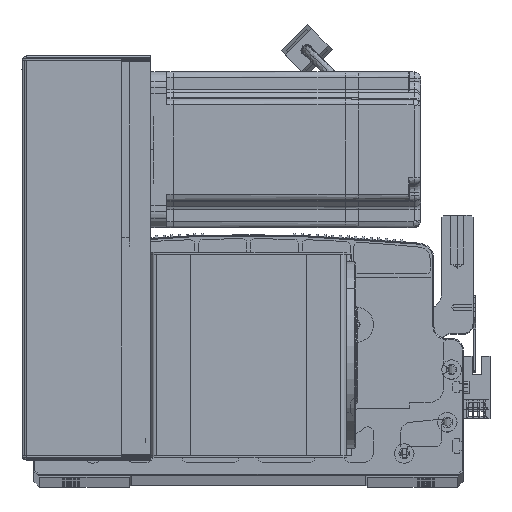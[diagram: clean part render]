
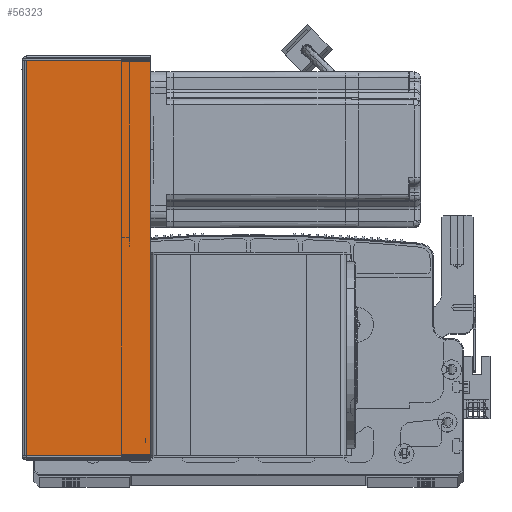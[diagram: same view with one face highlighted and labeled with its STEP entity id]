
A CAD part, top view. The second image highlights one B-rep face of the part: STEP entity #56323.
In plain terms, the highlighted planar face has unit normal (0, 0, 1) as drawn and (0, 1, 0) by its records, which use the part's own axes.
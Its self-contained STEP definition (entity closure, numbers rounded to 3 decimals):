
#473 = DIRECTION ( 'NONE',  ( 1., 0., 0. ) ) ;
#980 = EDGE_CURVE ( 'NONE', #32615, #91625, #28222, .T. ) ;
#3473 = EDGE_CURVE ( 'NONE', #91625, #55991, #48354, .T. ) ;
#5148 = DIRECTION ( 'NONE',  ( 1., 0., 0. ) ) ;
#6435 = VECTOR ( 'NONE', #95955, 1000. ) ;
#9502 = VERTEX_POINT ( 'NONE', #37461 ) ;
#9902 = AXIS2_PLACEMENT_3D ( 'NONE', #66414, #19211, #5148 ) ;
#10217 = VECTOR ( 'NONE', #75936, 1000. ) ;
#11781 = ORIENTED_EDGE ( 'NONE', *, *, #980, .F. ) ;
#14208 = VECTOR ( 'NONE', #24252, 1000. ) ;
#19211 = DIRECTION ( 'NONE',  ( 0., -1., 0. ) ) ;
#22346 = CARTESIAN_POINT ( 'NONE',  ( 64.5, 107.5, -203.293 ) ) ;
#23773 = LINE ( 'NONE', #31970, #89613 ) ;
#24252 = DIRECTION ( 'NONE',  ( 0., 0., -1. ) ) ;
#24422 = CARTESIAN_POINT ( 'NONE',  ( 0.737, 107.5, -0.707 ) ) ;
#27123 = EDGE_CURVE ( 'NONE', #32615, #9502, #23773, .T. ) ;
#28222 = LINE ( 'NONE', #99086, #10217 ) ;
#31970 = CARTESIAN_POINT ( 'NONE',  ( 0., 107.5, -0.707 ) ) ;
#32615 = VERTEX_POINT ( 'NONE', #24422 ) ;
#34712 = CARTESIAN_POINT ( 'NONE',  ( 0., 107.5, -203.293 ) ) ;
#37461 = CARTESIAN_POINT ( 'NONE',  ( 64.5, 107.5, -0.707 ) ) ;
#43902 = ORIENTED_EDGE ( 'NONE', *, *, #3473, .F. ) ;
#48354 = LINE ( 'NONE', #34712, #6435 ) ;
#50359 = FACE_OUTER_BOUND ( 'NONE', #62890, .T. ) ;
#51751 = ORIENTED_EDGE ( 'NONE', *, *, #57379, .T. ) ;
#55991 = VERTEX_POINT ( 'NONE', #22346 ) ;
#56323 = ADVANCED_FACE ( 'NONE', ( #50359 ), #96883, .F. ) ;
#57379 = EDGE_CURVE ( 'NONE', #9502, #55991, #62125, .T. ) ;
#62125 = LINE ( 'NONE', #91170, #14208 ) ;
#62890 = EDGE_LOOP ( 'NONE', ( #11781, #96585, #51751, #43902 ) ) ;
#66414 = CARTESIAN_POINT ( 'NONE',  ( 0., 107.5, 0. ) ) ;
#75936 = DIRECTION ( 'NONE',  ( 0., 0., -1. ) ) ;
#87235 = CARTESIAN_POINT ( 'NONE',  ( 0.737, 107.5, -203.293 ) ) ;
#89613 = VECTOR ( 'NONE', #473, 1000. ) ;
#91170 = CARTESIAN_POINT ( 'NONE',  ( 64.5, 107.5, -204. ) ) ;
#91625 = VERTEX_POINT ( 'NONE', #87235 ) ;
#95955 = DIRECTION ( 'NONE',  ( 1., 0., 0. ) ) ;
#96585 = ORIENTED_EDGE ( 'NONE', *, *, #27123, .T. ) ;
#96883 = PLANE ( 'NONE',  #9902 ) ;
#99086 = CARTESIAN_POINT ( 'NONE',  ( 0.737, 107.5, 0. ) ) ;
